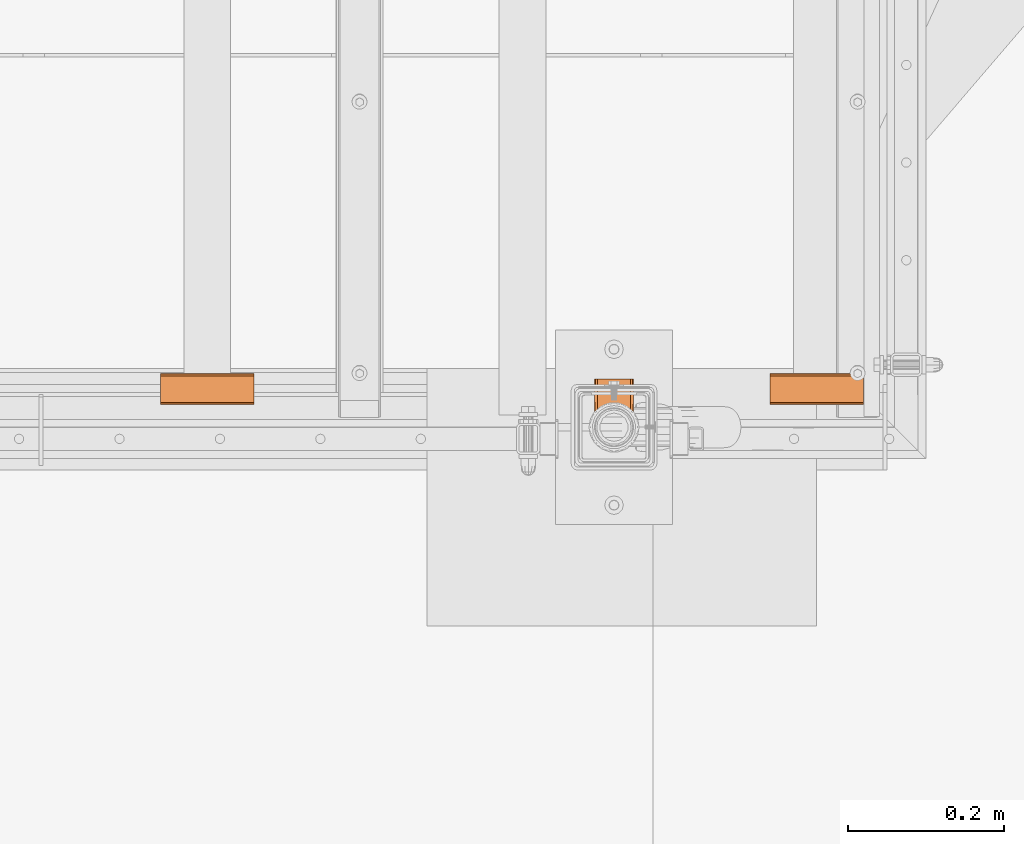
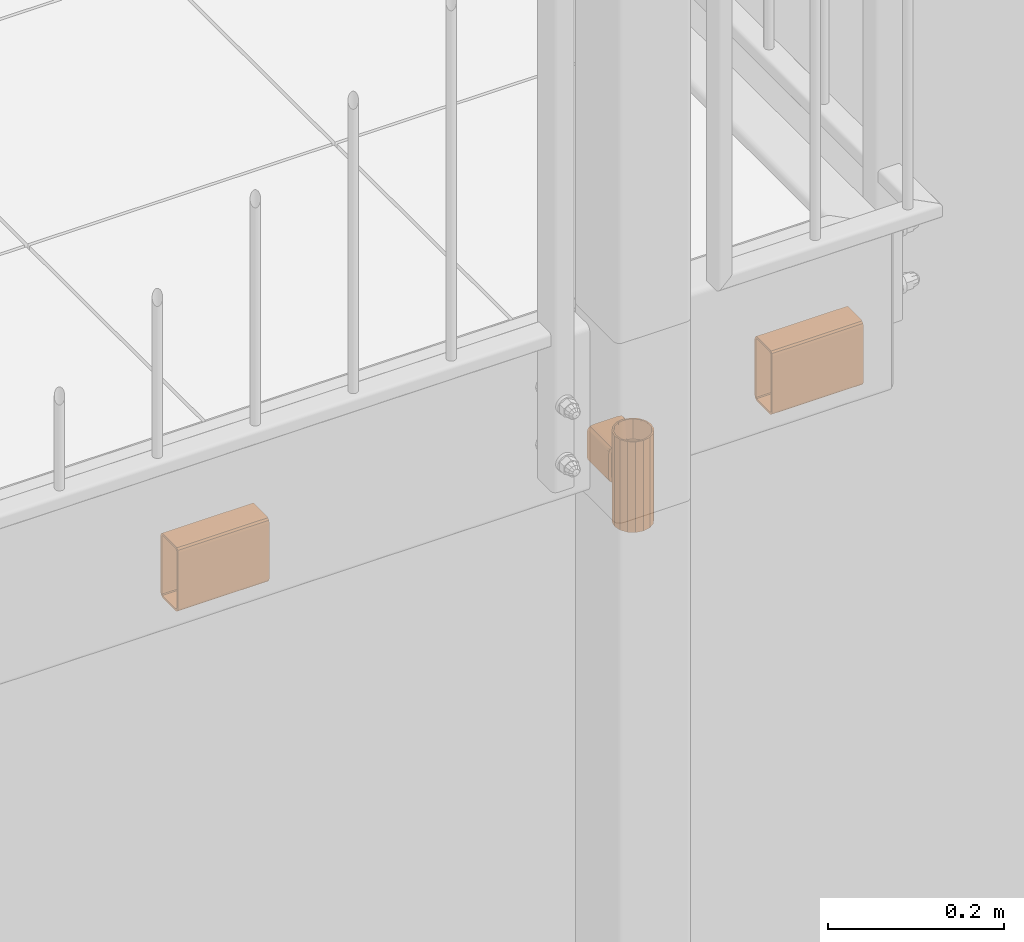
# One storey, part 87 of 162: 3 proxies.
"""IFC2X3 building model written with IfcOpenShell, lengths in millimetres."""

from ifc_helpers import new_model, entity, si_unit, converted_unit, origin_with_axes, place, context, project, spatial, faceted_brep, material, element, save


model = new_model("IFC2X3")

# Units and contexts
model_context = context("Model", 3, precision=1e-09, world=origin_with_axes())
ifc_project = project(units=[si_unit("LENGTHUNIT", "METRE", prefix="MILLI"), si_unit("AREAUNIT", "SQUARE_METRE"), si_unit("VOLUMEUNIT", "CUBIC_METRE"), converted_unit("PLANEANGLEUNIT", "DEGREE", entity("IfcPlaneAngleMeasure", 0.01745329), si_unit("PLANEANGLEUNIT", "RADIAN"), dimensions=[0, 0, 0, 0, 0, 0, 0])], contexts=[model_context])

# Site, building, storey
site_placement = place(None, origin_with_axes())
site = spatial("IfcSite", under=ifc_project, at=site_placement, Name="Hermannstra?e 1a, 60318 Frankfurt", CompositionType="ELEMENT")
building_placement = place(site_placement, origin_with_axes())
building = spatial("IfcBuilding", under=site, at=building_placement, Name="Struktur 1", CompositionType="ELEMENT")
storey_placement = place(building_placement, origin_with_axes())
storey = spatial("IfcBuildingStorey", under=building, at=storey_placement, Name="Default Storey", CompositionType="ELEMENT", Elevation=0.0)

# Proxies
ifc_material_1 = material(Name="S235JR")
proxy_1_placement = place(None, origin_with_axes())
element("IfcBuildingElementProxy", 1, at=proxy_1_placement, inside=storey, material=ifc_material_1, ObjectType="-", context=model_context, shape_type="Brep", body=[
    faceted_brep([(5452.350576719, 1542.609373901, 15049.571710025), (5452.327698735, 1542.609373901, 15049.381537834), (5452.30936482, 1592.609373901, 15048.999), (5450.201414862, 1542.609373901, 15009.832478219), (5452.350576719, 1542.609373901, 15008.047165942), (5452.350576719, 1542.609373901, 15014.426289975), (5452.327698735, 1542.609373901, 15014.616462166), (5452.313950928, 1542.609373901, 15014.807511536), (5452.30936482, 1542.609373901, 15014.999), (5452.30936482, 1542.609373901, 15048.999), (5452.313950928, 1542.609373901, 15049.190488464), (5452.350576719, 1542.609373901, 15055.950834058), (5450.201414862, 1542.609373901, 15054.165521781), (5448.797254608, 1542.609373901, 15051.750036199), (5448.30936482, 1542.609373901, 15048.999), (5448.30936482, 1542.609373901, 15014.999), (5448.797254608, 1542.609373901, 15012.247963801), (5452.563771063, 1542.974289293, 15050.402750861), (5452.845263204, 1592.609373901, 15050.999), (5452.911785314, 1543.540321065, 15051.110024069), (5449.381161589, 1592.609373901, 15052.999), (5448.30936482, 1592.609373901, 15048.999), (5452.30936482, 1592.609373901, 15055.92720323), (5456.30936482, 1592.609373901, 15056.999), (5490.30936482, 1592.609373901, 15056.999), (5494.30936482, 1592.609373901, 15055.92720323), (5497.23756805, 1592.609373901, 15052.999), (5498.30936482, 1592.609373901, 15048.999), (5498.30936482, 1592.609373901, 15014.999), (5497.23756805, 1592.609373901, 15010.999), (5494.30936482, 1592.609373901, 15008.07079677), (5490.30936482, 1592.609373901, 15006.999), (5456.30936482, 1592.609373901, 15006.999), (5452.30936482, 1592.609373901, 15008.07079677), (5449.381161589, 1592.609373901, 15010.999), (5448.30936482, 1592.609373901, 15014.999), (5454.30936482, 1592.609373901, 15052.463101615), (5452.30936482, 1592.609373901, 15014.999), (5452.845263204, 1592.609373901, 15012.999), (5454.30936482, 1592.609373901, 15011.534898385), (5456.30936482, 1592.609373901, 15010.999), (5490.30936482, 1592.609373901, 15010.999), (5492.30936482, 1592.609373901, 15011.534898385), (5493.773466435, 1592.609373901, 15012.999), (5494.30936482, 1592.609373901, 15014.999), (5494.30936482, 1592.609373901, 15048.999), (5493.773466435, 1592.609373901, 15050.999), (5492.30936482, 1592.609373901, 15052.463101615), (5490.30936482, 1592.609373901, 15052.999), (5456.30936482, 1592.609373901, 15052.999), (5453.822811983, 1544.876293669, 15052.132217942), (5456.30936482, 1547.7636969, 15052.999), (5456.30936482, 1547.7636969, 15056.999), (5464.117609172, 1552.942811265, 15052.999), (5464.117609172, 1552.942811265, 15056.999), (5452.573414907, 1542.990448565, 15013.569836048), (5490.30936482, 1547.763696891, 15052.999), (5482.50112047, 1552.942811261, 15052.999), (5473.309364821, 1554.760373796, 15052.999), (5473.309364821, 1554.760373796, 15056.999), (5452.924848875, 1543.560904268, 15012.867118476), (5482.50112047, 1552.942811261, 15056.999), (5490.30936482, 1547.763696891, 15056.999), (5453.844527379, 1544.905878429, 15011.84870281), (5456.30936482, 1547.7636969, 15006.999), (5456.30936482, 1547.7636969, 15010.999), (5464.117609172, 1552.942811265, 15006.999), (5464.117609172, 1552.942811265, 15010.999), (5490.30936482, 1547.763696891, 15006.999), (5482.50112047, 1552.942811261, 15006.999), (5473.309364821, 1554.760373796, 15006.999), (5473.309364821, 1554.760373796, 15010.999), (5493.706944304, 1543.540321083, 15051.110024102), (5494.054958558, 1542.974289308, 15050.402750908), (5494.268152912, 1542.609373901, 15055.950834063), (5494.268152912, 1542.609373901, 15049.571710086), (5492.795917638, 1544.876293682, 15052.132217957), (5482.50112047, 1552.942811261, 15010.999), (5490.30936482, 1547.763696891, 15010.999), (5496.417314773, 1542.609373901, 15009.832478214), (5497.82147503, 1542.609373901, 15012.247963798), (5498.30936482, 1542.609373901, 15014.999), (5498.30936482, 1542.609373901, 15048.999), (5497.82147503, 1542.609373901, 15051.750036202), (5496.417314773, 1542.609373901, 15054.165521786), (5494.2910309, 1542.609373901, 15049.381537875), (5494.304778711, 1542.609373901, 15049.190488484), (5494.30936482, 1542.609373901, 15048.999), (5494.30936482, 1542.609373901, 15014.999), (5494.304778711, 1542.609373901, 15014.807511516), (5494.2910309, 1542.609373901, 15014.616462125), (5494.268152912, 1542.609373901, 15014.426289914), (5494.268152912, 1542.609373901, 15008.047165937), (5492.774202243, 1544.90587844, 15011.848702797), (5493.693880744, 1543.560904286, 15012.867118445), (5494.045314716, 1542.990448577, 15013.569836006)], [[[0, 1, 2]], [[3, 4, 5, 6, 7, 8, 9, 10, 1, 0, 11, 12, 13, 14, 15, 16]], [[17, 0, 2]], [[17, 11, 0]], [[10, 2, 1]], [[17, 2, 18]], [[19, 17, 18]], [[17, 19, 11]], [[10, 9, 2]], [[20, 21, 13]], [[22, 20, 12]], [[20, 22, 23, 24, 25, 26, 27, 28, 29, 30, 31, 32, 33, 34, 35, 21], [36, 18, 2, 37, 38, 39, 40, 41, 42, 43, 44, 45, 46, 47, 48, 49]], [[50, 19, 18]], [[19, 50, 11]], [[9, 8, 37, 2]], [[20, 13, 12]], [[21, 14, 13]], [[15, 14, 21, 35]], [[22, 12, 11]], [[50, 18, 36]], [[50, 51, 52]], [[50, 52, 11]], [[51, 53, 54, 52]], [[7, 6, 37]], [[7, 37, 8]], [[5, 37, 6]], [[16, 15, 35]], [[5, 4, 55]], [[23, 22, 11]], [[51, 50, 36]], [[49, 48, 56, 57, 58, 53, 51]], [[23, 11, 52]], [[53, 58, 59, 54]], [[5, 55, 37]], [[16, 35, 34]], [[60, 55, 4]], [[51, 36, 49]], [[59, 61, 62, 24, 23, 52, 54]], [[3, 16, 34]], [[55, 38, 37]], [[55, 60, 38]], [[63, 60, 4]], [[58, 57, 61, 59]], [[4, 3, 33]], [[3, 34, 33]], [[60, 63, 38]], [[63, 4, 64]], [[57, 56, 62, 61]], [[64, 4, 33]], [[63, 39, 38]], [[65, 63, 64]], [[64, 66, 67, 65]], [[56, 48, 47]], [[32, 31, 68, 69, 70, 66, 64]], [[64, 33, 32]], [[63, 65, 39]], [[66, 70, 71, 67]], [[72, 73, 74]], [[75, 74, 73]], [[72, 76, 46]], [[76, 56, 47]], [[56, 76, 62]], [[76, 72, 74]], [[65, 40, 39]], [[71, 77, 78, 41, 40, 65, 67]], [[73, 72, 46]], [[75, 73, 45]], [[79, 80, 81, 82, 83, 84, 74, 75, 85, 86, 87, 88, 89, 90, 91, 92]], [[76, 47, 46]], [[62, 25, 24]], [[76, 74, 62]], [[77, 71, 70, 69]], [[78, 77, 69, 68]], [[73, 46, 45]], [[75, 45, 85]], [[62, 74, 25]], [[93, 78, 68]], [[94, 93, 92]], [[95, 94, 92]], [[91, 90, 44]], [[95, 92, 91]], [[86, 85, 45]], [[74, 84, 25]], [[89, 88, 44]], [[89, 44, 90]], [[93, 68, 92]], [[78, 42, 41]], [[78, 93, 42]], [[93, 94, 43]], [[94, 95, 43]], [[95, 91, 44]], [[86, 45, 87]], [[88, 87, 45, 44]], [[83, 27, 26]], [[84, 26, 25]], [[31, 92, 68]], [[93, 43, 42]], [[82, 81, 28, 27]], [[95, 44, 43]], [[83, 82, 27]], [[84, 83, 26]], [[31, 30, 92]], [[30, 79, 92]], [[28, 81, 80]], [[30, 29, 79]], [[29, 28, 80]], [[29, 80, 79]]]),
    faceted_brep([(5452.458054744, 1538.082250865, 15050.083774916), (5452.349523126, 1537.772303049, 15049.572274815), (5452.436342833, 1542.755917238, 15050.003005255), (5452.350714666, 1537.775786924, 15014.417484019), (5452.458814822, 1538.084468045, 15013.911278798), (5452.425069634, 1542.736564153, 15014.038862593), (5452.30836482, 1542.533320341, 15014.998), (5452.30836482, 1542.533320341, 15049.0), (5450.997674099, 1539.851178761, 14954.999), (5450.997674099, 1539.851178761, 15080.999), (5452.749261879, 1543.278325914, 15050.825042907), (5452.775277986, 1538.914394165, 15050.875444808), (5453.074332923, 1539.618590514, 15080.999), (5452.733221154, 1543.252318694, 15013.204072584), (5452.784214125, 1538.93644692, 15013.105836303), (5453.074332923, 1539.618590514, 14954.999), (5452.30836482, 1537.650716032, 15014.998), (5452.30836482, 1537.650716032, 15049.0), (5453.690911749, 1544.692624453, 15052.024687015), (5453.674163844, 1540.860237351, 15052.010116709), (5453.674712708, 1540.861329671, 15011.987368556), (5453.659785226, 1544.649160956, 15012.000497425), (5449.15936481, 1530.60937387, 14954.999), (5449.15936481, 1530.60937387, 15080.999), (5451.15936481, 1530.60937387, 15080.999), (5456.30836482, 1544.807560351, 15053.0), (5456.232736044, 1513.532745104, 14954.999), (5450.997674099, 1521.367568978, 14954.999), (5456.232736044, 1547.686002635, 14954.999), (5464.067559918, 1552.92106458, 14954.999), (5473.30936481, 1554.75937387, 14954.999), (5482.551169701, 1552.92106458, 14954.999), (5490.385993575, 1547.686002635, 14954.999), (5495.62105552, 1539.851178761, 14954.999), (5497.45936481, 1530.60937387, 14954.999), (5495.62105552, 1521.367568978, 14954.999), (5490.385993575, 1513.532745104, 14954.999), (5482.551169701, 1508.29768316, 14954.999), (5473.30936481, 1506.45937387, 14954.999), (5464.067559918, 1508.29768316, 14954.999), (5451.15936481, 1530.60937387, 14954.999), (5453.074332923, 1521.600157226, 14954.999), (5458.488121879, 1514.148715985, 14954.999), (5466.464638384, 1509.543472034, 14954.999), (5475.624670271, 1508.580713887, 14954.999), (5484.38436481, 1511.426911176, 14954.999), (5491.229091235, 1517.589930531, 14954.999), (5494.975334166, 1526.004129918, 14954.999), (5494.975334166, 1535.214617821, 14954.999), (5491.229091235, 1543.628817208, 14954.999), (5484.38436481, 1549.791836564, 14954.999), (5475.624670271, 1552.638033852, 14954.999), (5466.464638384, 1551.675275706, 14954.999), (5458.488121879, 1547.070031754, 14954.999), (5456.30836482, 1544.807560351, 15010.998), (5456.232736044, 1547.686002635, 15080.999), (5450.997674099, 1521.367568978, 15080.999), (5456.232736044, 1513.532745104, 15080.999), (5464.067559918, 1508.29768316, 15080.999), (5473.30936481, 1506.45937387, 15080.999), (5482.551169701, 1508.29768316, 15080.999), (5490.385993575, 1513.532745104, 15080.999), (5495.62105552, 1521.367568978, 15080.999), (5497.45936481, 1530.60937387, 15080.999), (5495.62105552, 1539.851178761, 15080.999), (5490.385993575, 1547.686002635, 15080.999), (5482.551169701, 1552.92106458, 15080.999), (5473.30936481, 1554.75937387, 15080.999), (5464.067559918, 1552.92106458, 15080.999), (5458.488121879, 1547.070031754, 15080.999), (5466.464638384, 1551.675275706, 15080.999), (5475.624670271, 1552.638033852, 15080.999), (5484.38436481, 1549.791836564, 15080.999), (5491.229091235, 1543.628817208, 15080.999), (5494.975334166, 1535.214617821, 15080.999), (5494.975334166, 1526.004129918, 15080.999), (5491.229091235, 1517.589930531, 15080.999), (5484.38436481, 1511.426911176, 15080.999), (5475.624670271, 1508.580713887, 15080.999), (5466.464638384, 1509.543472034, 15080.999), (5458.488121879, 1514.148715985, 15080.999), (5453.074332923, 1521.600157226, 15080.999), (5456.30836482, 1547.761297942, 15053.0), (5456.30836482, 1547.761297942, 15010.998), (5482.501849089, 1552.94143004, 15053.0), (5490.31036482, 1547.76129792, 15053.0), (5490.31036482, 1544.807560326, 15053.0), (5484.411161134, 1549.776340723, 15053.0), (5477.16583286, 1552.421071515, 15053.0), (5469.452896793, 1552.421071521, 15053.0), (5462.207568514, 1549.77634074, 15053.0), (5464.116880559, 1552.941430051, 15053.0), (5473.309364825, 1554.75937387, 15053.0), (5477.16583286, 1552.421071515, 15010.998), (5484.411161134, 1549.776340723, 15010.998), (5490.31036482, 1544.807560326, 15010.998), (5490.31036482, 1547.76129792, 15010.998), (5482.501849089, 1552.94143004, 15010.998), (5473.309364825, 1554.75937387, 15010.998), (5464.116880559, 1552.941430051, 15010.998), (5462.207568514, 1549.77634074, 15010.998), (5469.452896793, 1552.421071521, 15010.998), (5492.958944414, 1544.649160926, 15051.997502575), (5492.944565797, 1540.860237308, 15052.010116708), (5493.885508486, 1543.25231866, 15050.793927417), (5494.193660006, 1542.736564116, 15049.959137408), (5492.944565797, 1540.860237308, 15011.987883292), (5492.958944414, 1544.649160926, 15012.000497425), (5494.160674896, 1538.082250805, 15050.083774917), (5493.843451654, 1538.914394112, 15013.122555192), (5493.885508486, 1543.25231866, 15013.204072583), (5493.843451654, 1538.914394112, 15050.875444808), (5494.193660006, 1542.736564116, 15014.038862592), (5494.31036482, 1542.533320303, 15049.0), (5494.269206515, 1537.772302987, 15049.572274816), (5494.160674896, 1538.082250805, 15013.914225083), (5494.31036482, 1542.533320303, 15014.998), (5494.31036482, 1537.650715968, 15049.0), (5494.31036482, 1537.650715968, 15014.998), (5494.269206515, 1537.772302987, 15014.425725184)], [[[0, 1, 2]], [[3, 4, 5]], [[3, 5, 6]], [[1, 7, 2]], [[7, 6, 8, 9]], [[7, 9, 2]], [[0, 2, 10]], [[11, 0, 10]], [[12, 1, 0]], [[6, 5, 8]], [[4, 13, 5]], [[4, 14, 13]], [[4, 3, 15]], [[3, 6, 16]], [[1, 17, 7]], [[6, 7, 17, 16]], [[10, 2, 9]], [[11, 10, 18]], [[12, 17, 1]], [[19, 11, 18]], [[12, 0, 11]], [[5, 13, 8]], [[4, 15, 14]], [[14, 20, 13]], [[20, 21, 13]], [[3, 16, 15]], [[9, 8, 22, 23]], [[18, 10, 9]], [[12, 24, 17]], [[25, 19, 18]], [[12, 11, 19]], [[21, 8, 13]], [[26, 27, 22, 8, 28, 29, 30, 31, 32, 33, 34, 35, 36, 37, 38, 39], [40, 41, 42, 43, 44, 45, 46, 47, 48, 49, 50, 51, 52, 53, 15]], [[20, 14, 15]], [[20, 54, 21]], [[40, 15, 16]], [[17, 24, 40, 16]], [[55, 9, 23, 56, 57, 58, 59, 60, 61, 62, 63, 64, 65, 66, 67, 68], [24, 12, 69, 70, 71, 72, 73, 74, 75, 76, 77, 78, 79, 80, 81]], [[23, 22, 27, 56]], [[18, 9, 55]], [[25, 18, 82]], [[12, 19, 25]], [[21, 28, 8]], [[54, 20, 15]], [[54, 83, 21]], [[82, 18, 55]], [[84, 85, 86, 87, 88, 89, 90, 25, 82, 91, 92]], [[69, 12, 25]], [[21, 83, 28]], [[54, 15, 53]], [[93, 94, 95, 96, 97, 98, 99, 83, 54, 100, 101]], [[40, 24, 81, 41]], [[56, 27, 26, 57]], [[82, 55, 68]], [[69, 25, 90]], [[83, 29, 28]], [[100, 54, 53]], [[91, 82, 68]], [[70, 69, 90]], [[83, 99, 29]], [[100, 53, 52]], [[41, 81, 80, 42]], [[57, 26, 39, 58]], [[92, 91, 67]], [[91, 68, 67]], [[70, 90, 89]], [[99, 98, 30]], [[99, 30, 29]], [[101, 100, 52]], [[84, 92, 67]], [[71, 70, 89]], [[98, 97, 30]], [[101, 52, 51]], [[42, 80, 79, 43]], [[58, 39, 38, 59]], [[84, 67, 66]], [[71, 89, 88]], [[97, 31, 30]], [[93, 101, 51]], [[85, 84, 66]], [[72, 71, 88]], [[72, 88, 87]], [[97, 96, 31]], [[93, 51, 50]], [[94, 93, 50]], [[43, 79, 78, 44]], [[59, 38, 37, 60]], [[86, 85, 102]], [[85, 66, 65]], [[72, 87, 86]], [[103, 86, 102]], [[103, 102, 104]], [[105, 104, 64]], [[96, 32, 31]], [[95, 94, 50]], [[106, 96, 95]], [[106, 107, 96]], [[108, 104, 105]], [[109, 110, 107]], [[102, 64, 104]], [[102, 85, 65]], [[73, 72, 86]], [[73, 86, 103]], [[111, 103, 104]], [[108, 111, 104]], [[110, 112, 33]], [[113, 105, 64]], [[96, 107, 32]], [[107, 110, 33]], [[95, 50, 49]], [[106, 95, 49]], [[106, 109, 107]], [[44, 78, 77, 45]], [[60, 37, 36, 61]], [[114, 108, 105]], [[114, 105, 113]], [[109, 115, 110]], [[115, 112, 110]], [[102, 65, 64]], [[111, 73, 103]], [[111, 108, 74]], [[116, 33, 112]], [[113, 64, 33, 116]], [[107, 33, 32]], [[109, 106, 49]], [[108, 114, 74]], [[114, 113, 117]], [[113, 116, 118, 117]], [[109, 48, 115]], [[115, 119, 112]], [[119, 116, 112]], [[35, 62, 61, 36]], [[111, 74, 73]], [[109, 49, 48]], [[45, 77, 76, 46]], [[117, 74, 114]], [[119, 115, 48]], [[119, 118, 116]], [[62, 35, 34, 63]], [[63, 34, 33, 64]], [[117, 118, 48, 74]], [[118, 119, 48]], [[46, 76, 75, 47]], [[74, 48, 47, 75]]]),
])
ifc_material_2 = material(Name="Alu")
proxy_2_placement = place(None, origin_with_axes())
element("IfcBuildingElementProxy", 2, at=proxy_2_placement, inside=storey, material=ifc_material_2, ObjectType="-", context=model_context, shape_type="Brep", body=[
    faceted_brep([(5011.55936482, 1596.609373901, 15012.802847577), (5011.55936482, 1598.805526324, 15014.999), (5011.55936482, 1599.609373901, 15017.999), (5011.55936482, 1599.609373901, 15095.999), (5011.55936482, 1598.805526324, 15098.999), (5011.55936482, 1596.609373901, 15101.195152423), (5011.55936482, 1593.609373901, 15101.999), (5011.55936482, 1565.609373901, 15101.999), (5011.55936482, 1562.609373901, 15101.195152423), (5011.55936482, 1560.413221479, 15098.999), (5011.55936482, 1559.609373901, 15095.999), (5011.55936482, 1559.609373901, 15017.999), (5011.55936482, 1560.413221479, 15014.999), (5011.55936482, 1562.609373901, 15012.802847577), (5011.55936482, 1565.609373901, 15011.999), (5011.55936482, 1593.609373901, 15011.999), (5011.55936482, 1596.609373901, 15017.999), (5011.55936482, 1596.207450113, 15016.499), (5011.55936482, 1595.109373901, 15015.400923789), (5011.55936482, 1593.609373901, 15014.999), (5011.55936482, 1565.609373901, 15014.999), (5011.55936482, 1564.109373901, 15015.400923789), (5011.55936482, 1563.01129769, 15016.499), (5011.55936482, 1562.609373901, 15017.999), (5011.55936482, 1562.609373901, 15095.999), (5011.55936482, 1563.01129769, 15097.499), (5011.55936482, 1564.109373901, 15098.597076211), (5011.55936482, 1565.609373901, 15098.999), (5011.55936482, 1593.609373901, 15098.999), (5011.55936482, 1595.109373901, 15098.597076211), (5011.55936482, 1596.207450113, 15097.499), (5011.55936482, 1596.609373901, 15095.999), (4891.55936482, 1596.609373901, 15017.999), (4891.55936482, 1596.207450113, 15016.499), (4891.55936482, 1599.609373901, 15017.999), (4891.55936482, 1598.805526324, 15014.999), (4891.55936482, 1598.805526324, 15098.999), (4891.55936482, 1599.609373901, 15095.999), (4891.55936482, 1596.609373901, 15012.802847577), (4891.55936482, 1593.609373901, 15011.999), (4891.55936482, 1565.609373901, 15011.999), (4891.55936482, 1562.609373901, 15012.802847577), (4891.55936482, 1560.413221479, 15014.999), (4891.55936482, 1559.609373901, 15017.999), (4891.55936482, 1559.609373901, 15095.999), (4891.55936482, 1560.413221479, 15098.999), (4891.55936482, 1562.609373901, 15101.195152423), (4891.55936482, 1565.609373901, 15101.999), (4891.55936482, 1593.609373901, 15101.999), (4891.55936482, 1596.609373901, 15101.195152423), (4891.55936482, 1596.609373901, 15095.999), (4891.55936482, 1596.207450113, 15097.499), (4891.55936482, 1595.109373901, 15098.597076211), (4891.55936482, 1593.609373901, 15098.999), (4891.55936482, 1565.609373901, 15098.999), (4891.55936482, 1564.109373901, 15098.597076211), (4891.55936482, 1563.01129769, 15097.499), (4891.55936482, 1562.609373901, 15095.999), (4891.55936482, 1562.609373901, 15017.999), (4891.55936482, 1563.01129769, 15016.499), (4891.55936482, 1564.109373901, 15015.400923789), (4891.55936482, 1565.609373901, 15014.999), (4891.55936482, 1593.609373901, 15014.999), (4891.55936482, 1595.109373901, 15015.400923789)], [[[0, 1, 2, 3, 4, 5, 6, 7, 8, 9, 10, 11, 12, 13, 14, 15], [16, 17, 18, 19, 20, 21, 22, 23, 24, 25, 26, 27, 28, 29, 30, 31]], [[16, 32, 33, 17]], [[34, 2, 1, 35]], [[36, 37, 34, 35, 38, 39, 40, 41, 42, 43, 44, 45, 46, 47, 48, 49], [50, 51, 52, 53, 54, 55, 56, 57, 58, 59, 60, 61, 62, 63, 33, 32]], [[16, 31, 50, 32]], [[34, 37, 3, 2]], [[3, 37, 36, 4]], [[17, 33, 63, 18]], [[35, 1, 0, 38]], [[50, 31, 30, 51]], [[4, 36, 49, 5]], [[18, 63, 62, 19]], [[38, 0, 15, 39]], [[51, 30, 29, 52]], [[5, 49, 48, 6]], [[62, 61, 20, 19]], [[15, 14, 40, 39]], [[52, 29, 28, 53]], [[48, 47, 7, 6]], [[28, 27, 54, 53]], [[20, 61, 60, 21]], [[40, 14, 13, 41]], [[7, 47, 46, 8]], [[54, 27, 26, 55]], [[21, 60, 59, 22]], [[41, 13, 12, 42]], [[11, 43, 42, 12]], [[8, 46, 45, 9]], [[55, 26, 25, 56]], [[22, 59, 58, 23]], [[11, 10, 44, 43]], [[24, 57, 56, 25]], [[24, 23, 58, 57]], [[9, 45, 44, 10]]]),
])
proxy_3_placement = place(None, origin_with_axes())
element("IfcBuildingElementProxy", 3, at=proxy_3_placement, inside=storey, material=ifc_material_2, ObjectType="-", context=model_context, shape_type="Brep", body=[
    faceted_brep([(5793.30936482, 1596.609373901, 15012.802847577), (5793.30936482, 1598.805526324, 15014.999), (5793.30936482, 1599.609373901, 15017.999), (5793.30936482, 1599.609373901, 15095.999), (5793.30936482, 1598.805526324, 15098.999), (5793.30936482, 1596.609373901, 15101.195152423), (5793.30936482, 1593.609373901, 15101.999), (5793.30936482, 1565.609373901, 15101.999), (5793.30936482, 1562.609373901, 15101.195152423), (5793.30936482, 1560.413221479, 15098.999), (5793.30936482, 1559.609373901, 15095.999), (5793.30936482, 1559.609373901, 15017.999), (5793.30936482, 1560.413221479, 15014.999), (5793.30936482, 1562.609373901, 15012.802847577), (5793.30936482, 1565.609373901, 15011.999), (5793.30936482, 1593.609373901, 15011.999), (5793.30936482, 1596.609373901, 15017.999), (5793.30936482, 1596.207450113, 15016.499), (5793.30936482, 1595.109373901, 15015.400923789), (5793.30936482, 1593.609373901, 15014.999), (5793.30936482, 1565.609373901, 15014.999), (5793.30936482, 1564.109373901, 15015.400923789), (5793.30936482, 1563.01129769, 15016.499), (5793.30936482, 1562.609373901, 15017.999), (5793.30936482, 1562.609373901, 15095.999), (5793.30936482, 1563.01129769, 15097.499), (5793.30936482, 1564.109373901, 15098.597076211), (5793.30936482, 1565.609373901, 15098.999), (5793.30936482, 1593.609373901, 15098.999), (5793.30936482, 1595.109373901, 15098.597076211), (5793.30936482, 1596.207450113, 15097.499), (5793.30936482, 1596.609373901, 15095.999), (5673.30936482, 1596.609373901, 15017.999), (5673.30936482, 1596.207450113, 15016.499), (5673.30936482, 1599.609373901, 15017.999), (5673.30936482, 1598.805526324, 15014.999), (5673.30936482, 1598.805526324, 15098.999), (5673.30936482, 1599.609373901, 15095.999), (5673.30936482, 1596.609373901, 15012.802847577), (5673.30936482, 1593.609373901, 15011.999), (5673.30936482, 1565.609373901, 15011.999), (5673.30936482, 1562.609373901, 15012.802847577), (5673.30936482, 1560.413221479, 15014.999), (5673.30936482, 1559.609373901, 15017.999), (5673.30936482, 1559.609373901, 15095.999), (5673.30936482, 1560.413221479, 15098.999), (5673.30936482, 1562.609373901, 15101.195152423), (5673.30936482, 1565.609373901, 15101.999), (5673.30936482, 1593.609373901, 15101.999), (5673.30936482, 1596.609373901, 15101.195152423), (5673.30936482, 1596.609373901, 15095.999), (5673.30936482, 1596.207450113, 15097.499), (5673.30936482, 1595.109373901, 15098.597076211), (5673.30936482, 1593.609373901, 15098.999), (5673.30936482, 1565.609373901, 15098.999), (5673.30936482, 1564.109373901, 15098.597076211), (5673.30936482, 1563.01129769, 15097.499), (5673.30936482, 1562.609373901, 15095.999), (5673.30936482, 1562.609373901, 15017.999), (5673.30936482, 1563.01129769, 15016.499), (5673.30936482, 1564.109373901, 15015.400923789), (5673.30936482, 1565.609373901, 15014.999), (5673.30936482, 1593.609373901, 15014.999), (5673.30936482, 1595.109373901, 15015.400923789)], [[[0, 1, 2, 3, 4, 5, 6, 7, 8, 9, 10, 11, 12, 13, 14, 15], [16, 17, 18, 19, 20, 21, 22, 23, 24, 25, 26, 27, 28, 29, 30, 31]], [[16, 32, 33, 17]], [[34, 2, 1, 35]], [[36, 37, 34, 35, 38, 39, 40, 41, 42, 43, 44, 45, 46, 47, 48, 49], [50, 51, 52, 53, 54, 55, 56, 57, 58, 59, 60, 61, 62, 63, 33, 32]], [[16, 31, 50, 32]], [[34, 37, 3, 2]], [[3, 37, 36, 4]], [[17, 33, 63, 18]], [[35, 1, 0, 38]], [[50, 31, 30, 51]], [[4, 36, 49, 5]], [[18, 63, 62, 19]], [[38, 0, 15, 39]], [[51, 30, 29, 52]], [[5, 49, 48, 6]], [[62, 61, 20, 19]], [[15, 14, 40, 39]], [[52, 29, 28, 53]], [[48, 47, 7, 6]], [[28, 27, 54, 53]], [[20, 61, 60, 21]], [[40, 14, 13, 41]], [[7, 47, 46, 8]], [[54, 27, 26, 55]], [[21, 60, 59, 22]], [[41, 13, 12, 42]], [[11, 43, 42, 12]], [[8, 46, 45, 9]], [[55, 26, 25, 56]], [[22, 59, 58, 23]], [[11, 10, 44, 43]], [[24, 57, 56, 25]], [[24, 23, 58, 57]], [[9, 45, 44, 10]]]),
])

save(model, "model.ifc")
